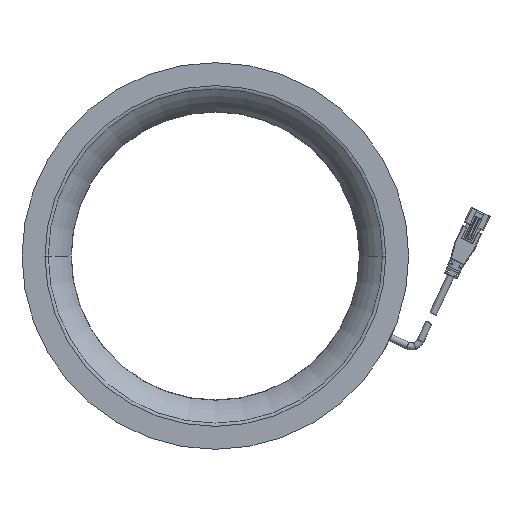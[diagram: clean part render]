
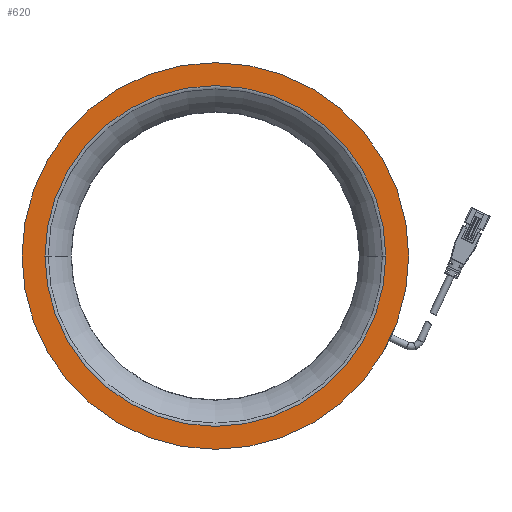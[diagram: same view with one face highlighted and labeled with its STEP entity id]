
A CAD part, front view. The second image highlights one B-rep face of the part: STEP entity #620.
In plain terms, the highlighted planar face has unit normal (0, -1, 0).
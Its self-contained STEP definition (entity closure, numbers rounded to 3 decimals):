
#77=CARTESIAN_POINT('',(0.,-25.5,0.));
#78=DIRECTION('',(0.,-1.,0.));
#79=DIRECTION('',(-1.,0.,0.));
#80=AXIS2_PLACEMENT_3D('',#77,#78,#79);
#87=CARTESIAN_POINT('',(0.,-25.5,0.));
#88=DIRECTION('',(0.,1.,0.));
#89=DIRECTION('',(-1.,0.,0.));
#90=AXIS2_PLACEMENT_3D('',#87,#88,#89);
#97=CARTESIAN_POINT('',(0.,-25.5,0.));
#98=DIRECTION('',(0.,-1.,0.));
#99=DIRECTION('',(-1.,0.,0.));
#100=AXIS2_PLACEMENT_3D('',#97,#98,#99);
#102=CARTESIAN_POINT('',(0.,-25.5,0.));
#103=DIRECTION('',(0.,1.,0.));
#104=DIRECTION('',(-1.,0.,0.));
#105=AXIS2_PLACEMENT_3D('',#102,#103,#104);
#389=CARTESIAN_POINT('',(-98.,-25.5,0.));
#390=VERTEX_POINT('',#389);
#391=CARTESIAN_POINT('',(-86.36,-25.5,0.));
#393=VERTEX_POINT('',#391);
#407=CARTESIAN_POINT('',(98.,-25.5,0.));
#408=VERTEX_POINT('',#407);
#409=CARTESIAN_POINT('',(86.36,-25.5,0.));
#411=VERTEX_POINT('',#409);
#605=CARTESIAN_POINT('',(0.,-25.5,0.));
#606=DIRECTION('',(0.,-1.,0.));
#607=DIRECTION('',(-1.,0.,0.));
#608=AXIS2_PLACEMENT_3D('',#605,#606,#607);
#609=PLANE('',#608);
#611=ORIENTED_EDGE('',*,*,#610,.F.);
#613=ORIENTED_EDGE('',*,*,#612,.T.);
#614=EDGE_LOOP('',(#611,#613));
#615=FACE_OUTER_BOUND('',#614,.F.);
#616=ORIENTED_EDGE('',*,*,#598,.F.);
#617=ORIENTED_EDGE('',*,*,#587,.T.);
#618=EDGE_LOOP('',(#616,#617));
#619=FACE_BOUND('',#618,.F.);
#620=ADVANCED_FACE('',(#615,#619),#609,.T.);
#81=CIRCLE('',#80,86.36);
#91=CIRCLE('',#90,86.36);
#101=CIRCLE('',#100,98.);
#106=CIRCLE('',#105,98.);
#587=EDGE_CURVE('',#393,#411,#81,.T.);
#598=EDGE_CURVE('',#393,#411,#91,.T.);
#610=EDGE_CURVE('',#390,#408,#101,.T.);
#612=EDGE_CURVE('',#390,#408,#106,.T.);
